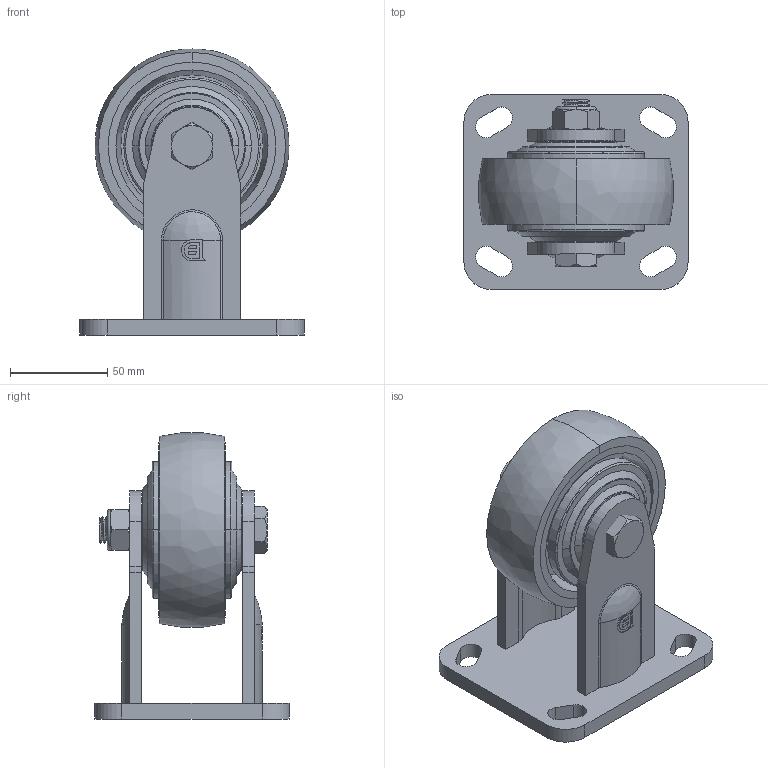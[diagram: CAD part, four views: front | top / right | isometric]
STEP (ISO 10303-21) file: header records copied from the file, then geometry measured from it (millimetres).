
FILE_DESCRIPTION((''),'2;1');
FILE_NAME('PRT0004','2025-04-22T09:22:23',('Administrator'),(''),'CREO PARAMETRIC BY PTC INC, 2022124','CREO PARAMETRIC BY PTC INC, 2022124','');
FILE_SCHEMA(('AP203_CONFIGURATION_CONTROLLED_3D_DESIGN_OF_MECHANICAL_PARTS_AND_ASSEMBLIES_MIM_LF { 1 0 10303 403 2 1 2 }'));
Length unit declared in the file: millimetre
Products named in the file (1): PRT0004
Bounding box: 115 x 100 x 146.78 mm (x, y, z)
Surface area: 106855 mm2 (no closed solid volume)
Topology: 0 solids, 25 shells, 197 faces, 543 edges, 382 vertices
Faces by surface type: plane 64, cylinder 57, cone 40, torus 24, bspline 12
Entity records: 10230 total; most frequent: CARTESIAN_POINT 3818, DIRECTION 1056, ORIENTED_EDGE 907, EDGE_CURVE 543, AXIS2_PLACEMENT_3D 431, VERTEX_POINT 382, EDGE_LOOP 236, CIRCLE 236
